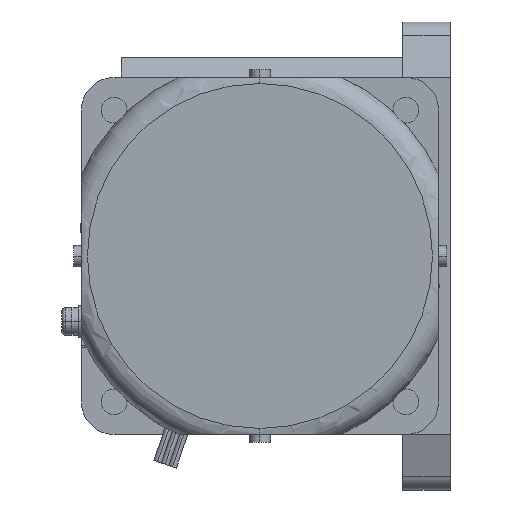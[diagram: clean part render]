
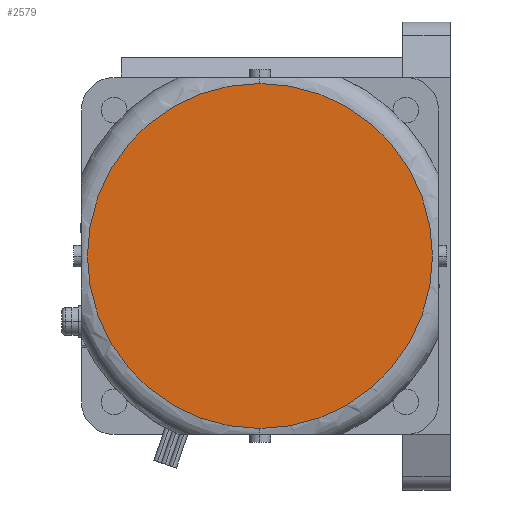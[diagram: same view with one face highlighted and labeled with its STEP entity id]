
A CAD part, left-side view. The second image highlights one B-rep face of the part: STEP entity #2579.
In plain terms, the highlighted planar face has unit normal (-1, 0, 0).
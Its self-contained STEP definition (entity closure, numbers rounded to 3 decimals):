
#2559=CARTESIAN_POINT('POINT233232',(-211.5,48.,26.5));
#2560=VERTEX_POINT('VERTEX233232',#2559);
#2561=CARTESIAN_POINT('POINT233233',(-211.5,48.,-60.5));
#2562=VERTEX_POINT('VERTEX233233',#2561);
#2563=CARTESIAN_POINT('POS381737',(-211.5,48.,-17.));
#2564=DIRECTION('DIR576233',(-1.,0.,0.));
#2565=DIRECTION('DIR576234',(0.,0.,-1.));
#2566=AXIS2_PLACEMENT_3D('AXIS194497',#2563,#2564,#2565);
#2567=CIRCLE('ELLIPSE92188',#2566,43.5);
#2568=EDGE_CURVE('EDGE357140',#2560,#2562,#2567,.T.);
#2569=ORIENTED_EDGE('COEDGE714255',*,*,#2568,.T.);
#2570=EDGE_CURVE('EDGE357141',#2562,#2560,#2567,.T.);
#2571=ORIENTED_EDGE('COEDGE714256',*,*,#2570,.T.);
#2572=EDGE_LOOP('NONE',(#2569,#2571));
#2573=FACE_BOUND('LOOP1',#2572,.T.);
#2574=CARTESIAN_POINT('POS381738',(-211.5,48.,
   5.25));
#2575=DIRECTION('DIR576235',(-1.,0.,0.));
#2576=DIRECTION('DIR576236',(0.,1.,0.));
#2577=AXIS2_PLACEMENT_3D('AXIS194498',#2574,#2575,#2576);
#2578=PLANE('PLANE61552',#2577);
#2579=ADVANCED_FACE('FACE146856',(#2573),#2578,.T.);
